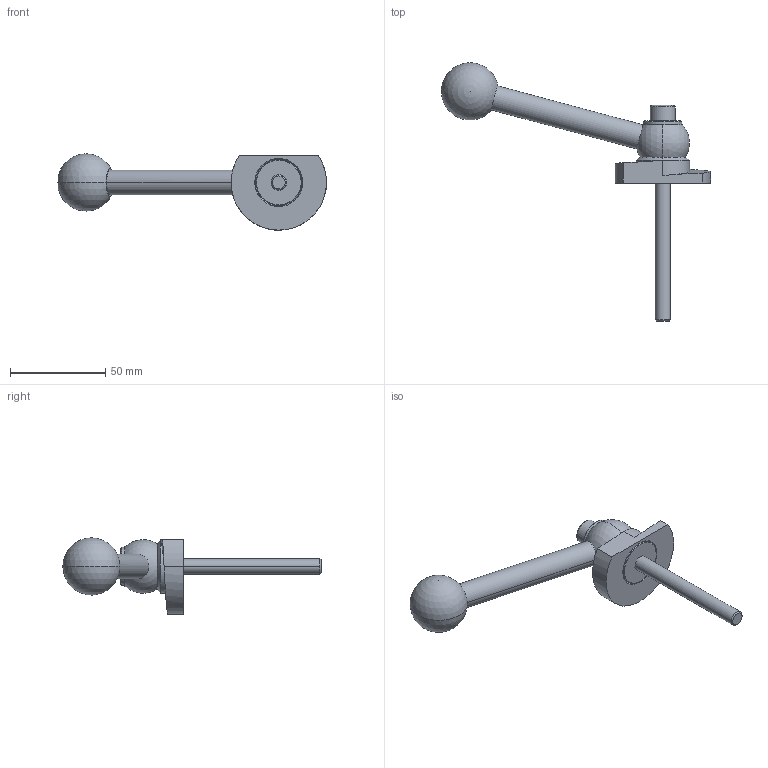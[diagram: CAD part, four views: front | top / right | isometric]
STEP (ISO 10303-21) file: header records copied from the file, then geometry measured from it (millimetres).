
FILE_DESCRIPTION (( 'STEP AP214' ), '1' );
FILE_NAME ('918.1-50-KVS-R-72.step', '2024-05-15T13:02:40', ( '' ), ( '' ), 'SwSTEP 2.0', 'SolidWorks 2022', '' );
FILE_SCHEMA (( 'AUTOMOTIVE_DESIGN' ));
Length unit declared in the file: millimetre
Products named in the file (1): 918.1-50-KVS-R-72
Bounding box: 140.94 x 135.31 x 40 mm (x, y, z)
Volume: 55066.1 mm3; surface area: 17298.9 mm2
Topology: 1 solids, 1 shells, 62 faces, 141 edges, 89 vertices
Faces by surface type: plane 20, cylinder 19, cone 14, sphere 4, bspline 3, torus 2
Entity records: 2011 total; most frequent: CARTESIAN_POINT 618, DIRECTION 305, ORIENTED_EDGE 262, EDGE_CURVE 131, AXIS2_PLACEMENT_3D 125, VERTEX_POINT 83, EDGE_LOOP 74, CIRCLE 65
